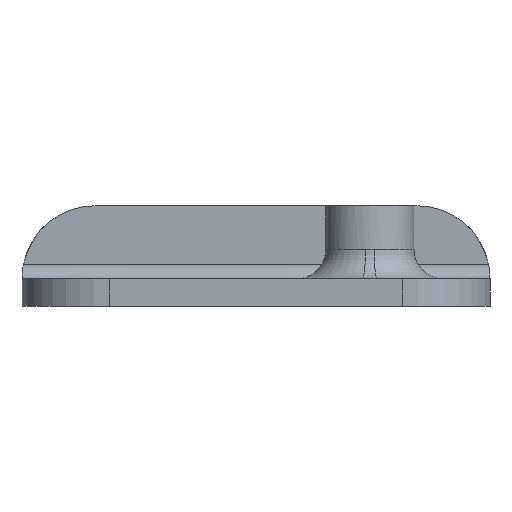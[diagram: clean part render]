
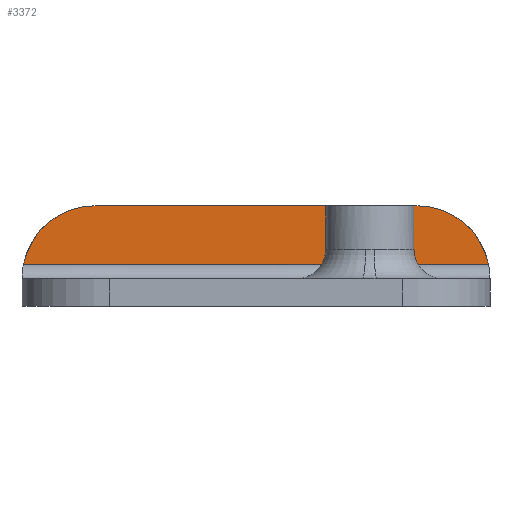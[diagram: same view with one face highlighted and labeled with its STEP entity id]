
A CAD part, front view. The second image highlights one B-rep face of the part: STEP entity #3372.
In plain terms, the highlighted planar face has unit normal (0, -1, 0).
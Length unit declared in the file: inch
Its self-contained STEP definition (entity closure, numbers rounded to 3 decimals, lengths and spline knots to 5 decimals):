
#140 = CARTESIAN_POINT ( 'NONE',  ( 0.0101, -5., 0.2875 ) ) ;
#143 = ORIENTED_EDGE ( 'NONE', *, *, #4046, .F. ) ;
#274 = CARTESIAN_POINT ( 'NONE',  ( 0.5, -5., 0.6875 ) ) ;
#343 = EDGE_CURVE ( 'NONE', #2944, #1461, #942, .T. ) ;
#467 = ORIENTED_EDGE ( 'NONE', *, *, #828, .T. ) ;
#485 = CARTESIAN_POINT ( 'NONE',  ( 0.5, -5., 0.1875 ) ) ;
#760 = CARTESIAN_POINT ( 'NONE',  ( 3.19456, -5., 0.2875 ) ) ;
#798 = DIRECTION ( 'NONE',  ( 0., 0., 1. ) ) ;
#811 = EDGE_CURVE ( 'NONE', #1461, #3658, #1370, .T. ) ;
#828 = EDGE_CURVE ( 'NONE', #2437, #2944, #2926, .T. ) ;
#871 = CARTESIAN_POINT ( 'NONE',  ( 0., -5., 0.6875 ) ) ;
#885 = LINE ( 'NONE', #4061, #2454 ) ;
#942 = LINE ( 'NONE', #1944, #3052 ) ;
#1370 = CIRCLE ( 'NONE', #3193, 0.5 ) ;
#1461 = VERTEX_POINT ( 'NONE', #760 ) ;
#1516 = DIRECTION ( 'NONE',  ( 0., 1., 0. ) ) ;
#1736 = DIRECTION ( 'NONE',  ( 0., -1., 0. ) ) ;
#1939 = ORIENTED_EDGE ( 'NONE', *, *, #343, .T. ) ;
#1944 = CARTESIAN_POINT ( 'NONE',  ( 0., -5., 0.2875 ) ) ;
#2129 = PLANE ( 'NONE',  #2298 ) ;
#2133 = CARTESIAN_POINT ( 'NONE',  ( 2.70466, -5., 0.6875 ) ) ;
#2163 = EDGE_LOOP ( 'NONE', ( #467, #1939, #3284, #143 ) ) ;
#2298 = AXIS2_PLACEMENT_3D ( 'NONE', #871, #1516, #3704 ) ;
#2437 = VERTEX_POINT ( 'NONE', #274 ) ;
#2454 = VECTOR ( 'NONE', #3744, 39.37008 ) ;
#2589 = DIRECTION ( 'NONE',  ( 1., 0., 0. ) ) ;
#2682 = DIRECTION ( 'NONE',  ( 0., -1., 0. ) ) ;
#2706 = FACE_OUTER_BOUND ( 'NONE', #2163, .T. ) ;
#2926 = CIRCLE ( 'NONE', #4027, 0.5 ) ;
#2944 = VERTEX_POINT ( 'NONE', #140 ) ;
#3052 = VECTOR ( 'NONE', #2589, 39.37008 ) ;
#3193 = AXIS2_PLACEMENT_3D ( 'NONE', #3608, #1736, #3929 ) ;
#3284 = ORIENTED_EDGE ( 'NONE', *, *, #811, .T. ) ;
#3372 = ADVANCED_FACE ( 'NONE', ( #2706 ), #2129, .F. ) ;
#3608 = CARTESIAN_POINT ( 'NONE',  ( 2.70466, -5., 0.1875 ) ) ;
#3658 = VERTEX_POINT ( 'NONE', #2133 ) ;
#3704 = DIRECTION ( 'NONE',  ( 0., 0., 1. ) ) ;
#3744 = DIRECTION ( 'NONE',  ( 1., 0., 0. ) ) ;
#3929 = DIRECTION ( 'NONE',  ( 0., 0., 1. ) ) ;
#4027 = AXIS2_PLACEMENT_3D ( 'NONE', #485, #2682, #798 ) ;
#4046 = EDGE_CURVE ( 'NONE', #2437, #3658, #885, .T. ) ;
#4061 = CARTESIAN_POINT ( 'NONE',  ( 0., -5., 0.6875 ) ) ;
